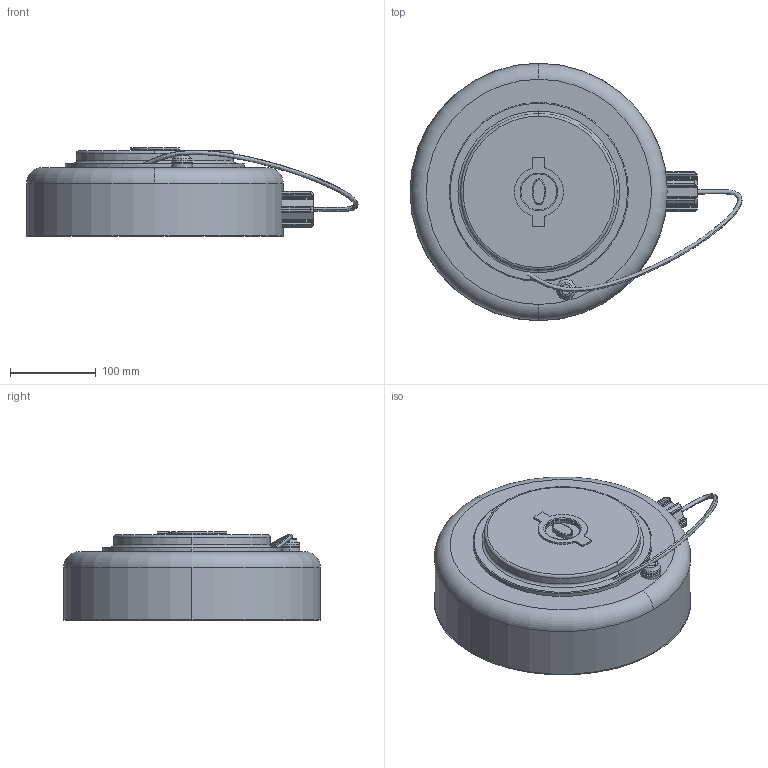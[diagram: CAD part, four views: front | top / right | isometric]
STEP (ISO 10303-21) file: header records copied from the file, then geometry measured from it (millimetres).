
FILE_DESCRIPTION(('STEP AP214'),'1');
FILE_NAME('C:/Users/Dominique Beer/Desktop/Plunder/Alles was man braucht/3D Zeichnungen/Waffen/tmp0.step','2014-02-10T22:18:15',(' '),(' '),'Spatial InterOp 3D',' ',' ');
FILE_SCHEMA(('automotive_design'));
Length unit declared in the file: millimetre
Products named in the file (6): 1; 2; 3; 4; 5; 6
Bounding box: 386.55 x 300 x 102.78 mm (x, y, z)
Volume: 6142315.8 mm3; surface area: 241703.8 mm2
Topology: 6 solids, 6 shells, 163 faces, 438 edges, 286 vertices
Faces by surface type: cylinder 78, plane 37, cone 24, torus 18, bspline 6
Entity records: 9691 total; most frequent: CARTESIAN_POINT 4085, DIRECTION 936, ORIENTED_EDGE 868, EDGE_CURVE 434, AXIS2_PLACEMENT_3D 383, VERTEX_POINT 286, CIRCLE 218, LINE 170
